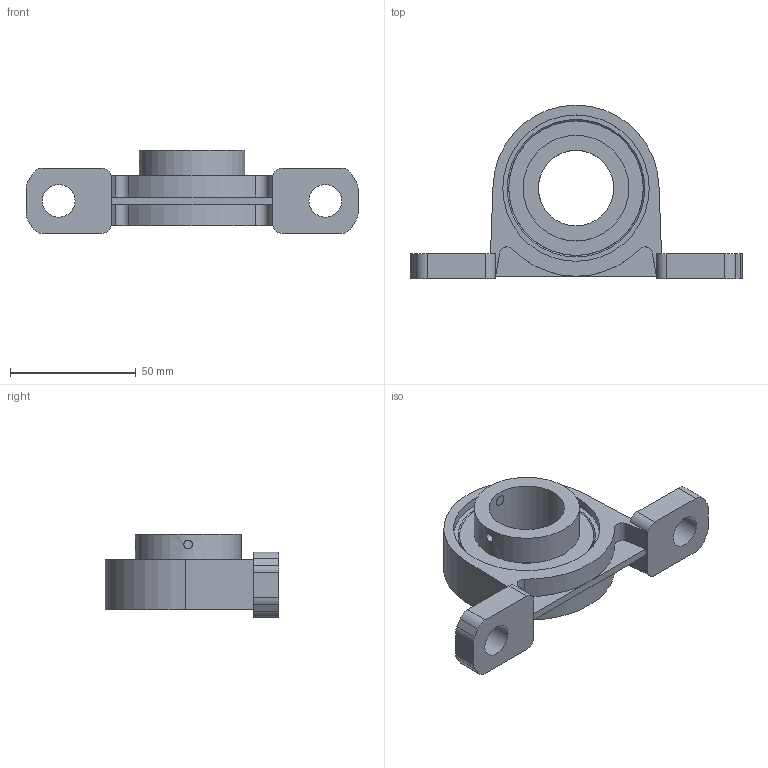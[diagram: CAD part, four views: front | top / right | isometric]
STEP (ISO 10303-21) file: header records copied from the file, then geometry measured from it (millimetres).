
FILE_DESCRIPTION((''),'2;1');
FILE_NAME('\\Ts-tgl068\J-Cad-D-BASE\00.3DCADデータ作成フォルダ\11.エコシリーズ\MUSP000\MUSP006.stp','2014-11-12T09:19:33',('btec_1106_2'),(''),'Autodesk Inventor 2012','Autodesk Inventor 2012','');
FILE_SCHEMA(('AUTOMOTIVE_DESIGN { 1 0 10303 214 1 1 1 1 }'));
Length unit declared in the file: millimetre
Products named in the file (3): MUSP000; SP006; U006
Assembly tree (2 placements, depth 2):
  MUSP000
    SP006
    U006
Bounding box: 132 x 69 x 33 mm (x, y, z)
Volume: 70671.4 mm3; surface area: 27355.7 mm2
Topology: 2 solids, 2 shells, 79 faces, 203 edges, 133 vertices
Faces by surface type: plane 44, cylinder 30, cone 3, sphere 2
Full cylindrical faces by diameter (mm): 3.5 x1, 4.134 x1, 13 x2, 30 x1, 38 x1, 42 x1, 58.2 x2
Entity records: 2490 total; most frequent: CARTESIAN_POINT 524, DIRECTION 410, ORIENTED_EDGE 360, EDGE_CURVE 180, AXIS2_PLACEMENT_3D 152, VERTEX_POINT 126, EDGE_LOOP 110, VECTOR 106
